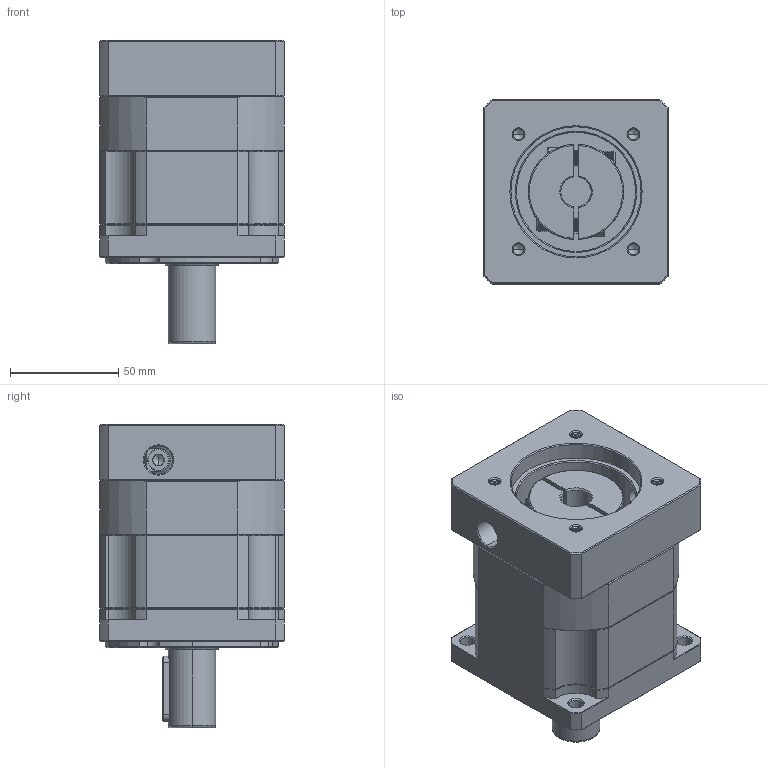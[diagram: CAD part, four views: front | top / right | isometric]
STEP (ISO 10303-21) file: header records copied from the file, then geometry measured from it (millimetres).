
FILE_DESCRIPTION (( 'STEP AP214' ), '1' );
FILE_NAME ('ZB090-D22-L1-P2-14-60-75-M6.step', '2023-08-18T12:12:28', ( '' ), ( '' ), 'SwSTEP 2.0', 'SolidWorks 2016', '' );
FILE_SCHEMA (( 'AUTOMOTIVE_DESIGN' ));
Length unit declared in the file: millimetre
Products named in the file (1): ZB090-D22-L1-P2-14-60-75-M6
Bounding box: 85 x 85 x 140 mm (x, y, z)
Volume: 620693.6 mm3; surface area: 86215.7 mm2
Topology: 4 solids, 5 shells, 2228 faces, 5900 edges, 3757 vertices
Faces by surface type: plane 1062, cylinder 400, bspline 397, cone 342, torus 27
Entity records: 120916 total; most frequent: CARTESIAN_POINT 44589, ORIENTED_EDGE 11756, DIRECTION 9208, EDGE_CURVE 5878, VERTEX_POINT 3757, VECTOR 3724, LINE 3724, AXIS2_PLACEMENT_3D 2742
